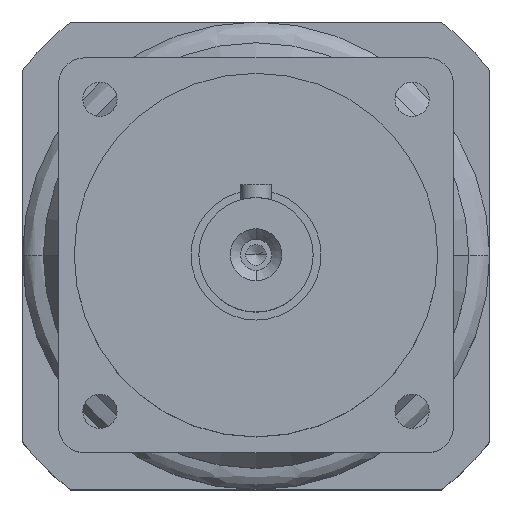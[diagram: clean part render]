
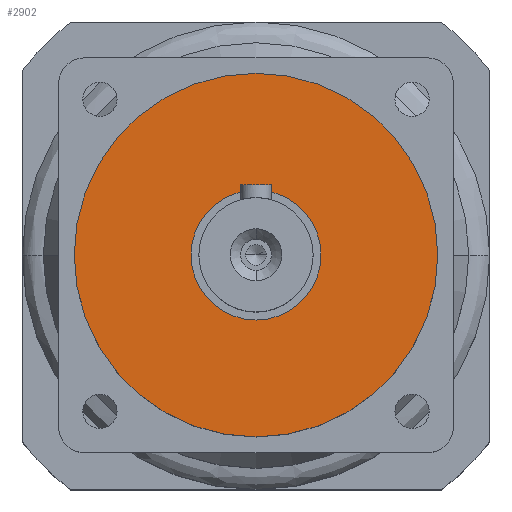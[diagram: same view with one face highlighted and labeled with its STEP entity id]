
A CAD part, top view. The second image highlights one B-rep face of the part: STEP entity #2902.
In plain terms, the highlighted planar face has unit normal (0, 0, 1).
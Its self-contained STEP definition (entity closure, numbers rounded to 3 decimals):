
#142 = DIRECTION ( 'NONE',  ( -1., 0., 0. ) ) ;
#167 = DIRECTION ( 'NONE',  ( 0., 0., -1. ) ) ;
#341 = CARTESIAN_POINT ( 'NONE',  ( 0., 0., 17.5 ) ) ;
#556 = CIRCLE ( 'NONE', #3555, 35. ) ;
#591 = PLANE ( 'NONE',  #2691 ) ;
#653 = EDGE_CURVE ( 'NONE', #3583, #4103, #1901, .T. ) ;
#678 = DIRECTION ( 'NONE',  ( -1., 0., 0. ) ) ;
#838 = CIRCLE ( 'NONE', #3448, 12.5 ) ;
#853 = CARTESIAN_POINT ( 'NONE',  ( 35., 0., 17.5 ) ) ;
#1138 = EDGE_CURVE ( 'NONE', #4103, #3583, #556, .T. ) ;
#1143 = FACE_BOUND ( 'NONE', #3576, .T. ) ;
#1490 = EDGE_LOOP ( 'NONE', ( #4105, #2198 ) ) ;
#1616 = VERTEX_POINT ( 'NONE', #3265 ) ;
#1743 = VERTEX_POINT ( 'NONE', #3222 ) ;
#1897 = DIRECTION ( 'NONE',  ( 0., 0., 1. ) ) ;
#1901 = CIRCLE ( 'NONE', #4093, 35. ) ;
#1912 = CARTESIAN_POINT ( 'NONE',  ( 0., 0., 17.5 ) ) ;
#1967 = ORIENTED_EDGE ( 'NONE', *, *, #2042, .T. ) ;
#2026 = FACE_OUTER_BOUND ( 'NONE', #1490, .T. ) ;
#2042 = EDGE_CURVE ( 'NONE', #1743, #1616, #3404, .T. ) ;
#2131 = DIRECTION ( 'NONE',  ( 0., 0., -1. ) ) ;
#2135 = EDGE_CURVE ( 'NONE', #1616, #1743, #838, .T. ) ;
#2155 = CARTESIAN_POINT ( 'NONE',  ( 0., 0., 17.5 ) ) ;
#2198 = ORIENTED_EDGE ( 'NONE', *, *, #653, .F. ) ;
#2238 = CARTESIAN_POINT ( 'NONE',  ( 0., 0., 17.5 ) ) ;
#2250 = DIRECTION ( 'NONE',  ( -1., 0., 0. ) ) ;
#2318 = AXIS2_PLACEMENT_3D ( 'NONE', #4142, #2131, #142 ) ;
#2507 = DIRECTION ( 'NONE',  ( -1., 0., 0. ) ) ;
#2661 = DIRECTION ( 'NONE',  ( 0., 0., -1. ) ) ;
#2665 = CARTESIAN_POINT ( 'NONE',  ( -35., 0., 17.5 ) ) ;
#2691 = AXIS2_PLACEMENT_3D ( 'NONE', #2238, #1897, #2918 ) ;
#2704 = ORIENTED_EDGE ( 'NONE', *, *, #2135, .T. ) ;
#2902 = ADVANCED_FACE ( 'NONE', ( #1143, #2026 ), #591, .T. ) ;
#2918 = DIRECTION ( 'NONE',  ( 1., 0., 0. ) ) ;
#3222 = CARTESIAN_POINT ( 'NONE',  ( 12.5, 0., 17.5 ) ) ;
#3265 = CARTESIAN_POINT ( 'NONE',  ( -12.5, 0., 17.5 ) ) ;
#3404 = CIRCLE ( 'NONE', #2318, 12.5 ) ;
#3448 = AXIS2_PLACEMENT_3D ( 'NONE', #2155, #167, #2507 ) ;
#3555 = AXIS2_PLACEMENT_3D ( 'NONE', #341, #2661, #678 ) ;
#3576 = EDGE_LOOP ( 'NONE', ( #2704, #1967 ) ) ;
#3583 = VERTEX_POINT ( 'NONE', #853 ) ;
#4093 = AXIS2_PLACEMENT_3D ( 'NONE', #1912, #4254, #2250 ) ;
#4103 = VERTEX_POINT ( 'NONE', #2665 ) ;
#4105 = ORIENTED_EDGE ( 'NONE', *, *, #1138, .F. ) ;
#4142 = CARTESIAN_POINT ( 'NONE',  ( 0., 0., 17.5 ) ) ;
#4254 = DIRECTION ( 'NONE',  ( 0., 0., -1. ) ) ;
